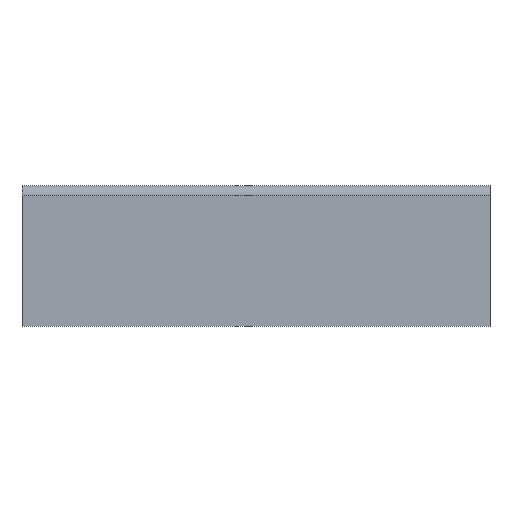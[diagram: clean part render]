
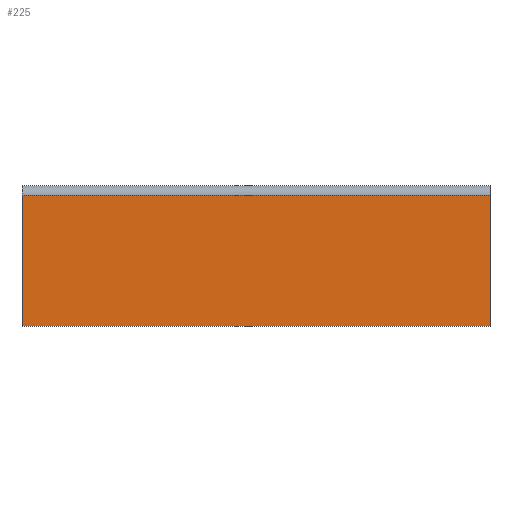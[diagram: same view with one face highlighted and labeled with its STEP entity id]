
A CAD part, left-side view. The second image highlights one B-rep face of the part: STEP entity #225.
In plain terms, the highlighted planar face has unit normal (-1, 0, 0).
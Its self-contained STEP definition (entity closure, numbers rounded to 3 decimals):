
#225 = ADVANCED_FACE( '', ( #596 ), #597, .T. );
#596 = FACE_OUTER_BOUND( '', #1116, .T. );
#597 = PLANE( '', #1117 );
#1116 = EDGE_LOOP( '', ( #1710, #1711, #1712, #1713 ) );
#1117 = AXIS2_PLACEMENT_3D( '', #1714, #1715, #1716 );
#1710 = ORIENTED_EDGE( '', *, *, #3340, .F. );
#1711 = ORIENTED_EDGE( '', *, *, #3341, .F. );
#1712 = ORIENTED_EDGE( '', *, *, #3342, .T. );
#1713 = ORIENTED_EDGE( '', *, *, #3343, .T. );
#1714 = CARTESIAN_POINT( '', ( -15., 100., 13. ) );
#1715 = DIRECTION( '', ( -1., 0., 0. ) );
#1716 = DIRECTION( '', ( 0., 0., 1. ) );
#3340 = EDGE_CURVE( '', #4074, #4075, #4076, .T. );
#3341 = EDGE_CURVE( '', #4077, #4074, #4078, .T. );
#3342 = EDGE_CURVE( '', #4077, #4079, #4080, .T. );
#3343 = EDGE_CURVE( '', #4079, #4075, #4081, .T. );
#4074 = VERTEX_POINT( '', #5132 );
#4075 = VERTEX_POINT( '', #5133 );
#4076 = LINE( '', #5134, #5135 );
#4077 = VERTEX_POINT( '', #5136 );
#4078 = LINE( '', #5137, #5138 );
#4079 = VERTEX_POINT( '', #5139 );
#4080 = LINE( '', #5140, #5141 );
#4081 = LINE( '', #5142, #5143 );
#5132 = CARTESIAN_POINT( '', ( -15., 0., 13. ) );
#5133 = CARTESIAN_POINT( '', ( -15., 0., -15. ) );
#5134 = CARTESIAN_POINT( '', ( -15., 0., 13. ) );
#5135 = VECTOR( '', #6416, 1000. );
#5136 = CARTESIAN_POINT( '', ( -15., 100., 13. ) );
#5137 = CARTESIAN_POINT( '', ( -15., 100., 13. ) );
#5138 = VECTOR( '', #6417, 1000. );
#5139 = CARTESIAN_POINT( '', ( -15., 100., -15. ) );
#5140 = CARTESIAN_POINT( '', ( -15., 100., 13. ) );
#5141 = VECTOR( '', #6418, 1000. );
#5142 = CARTESIAN_POINT( '', ( -15., 100., -15. ) );
#5143 = VECTOR( '', #6419, 1000. );
#6416 = DIRECTION( '', ( 0., 0., -1. ) );
#6417 = DIRECTION( '', ( 0., -1., 0. ) );
#6418 = DIRECTION( '', ( 0., 0., -1. ) );
#6419 = DIRECTION( '', ( 0., -1., 0. ) );
